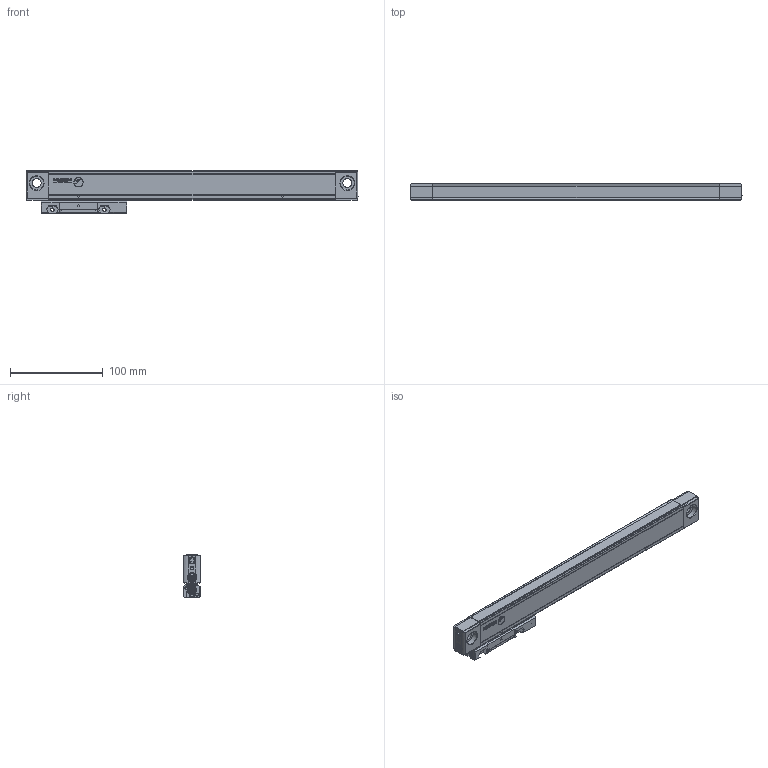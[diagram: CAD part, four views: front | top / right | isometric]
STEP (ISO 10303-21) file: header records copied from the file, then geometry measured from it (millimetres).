
FILE_DESCRIPTION(('Creo Elements/Direct Modeling STEP Export'),'2;1');
FILE_NAME('S3-220-T_V01.stp','2025-06-03T13:46:20',(''),(''),'Creo Elements/Direct Modeling STEP processor for AP214 (Solid Model)','Creo Elements/Direct Modeling 20.4A 18-Oct-2021 (C) Parametric Technology GmbH','');
FILE_SCHEMA(('AUTOMOTIVE_DESIGN { 1 0 10303 214 1 1 1 1 }'));
Length unit declared in the file: millimetre
Products named in the file (4): CABEZA-T; REGLA; S3-220-T_V01; S3-220-T_V01.stp
Assembly tree (3 placements, depth 3):
  S3-220-T_V01.stp
    S3-220-T_V01
      REGLA
      CABEZA-T
Bounding box: 358 x 18.3 x 46.2 mm (x, y, z)
Volume: 203157.4 mm3; surface area: 60470.6 mm2
Topology: 2 solids, 15 shells, 2148 faces, 6579 edges, 4542 vertices
Faces by surface type: plane 1148, cylinder 581, cone 230, bspline 135, torus 47, sphere 6, extrusion 1
Entity records: 90667 total; most frequent: CARTESIAN_POINT 31739, ORIENTED_EDGE 13084, DIRECTION 10690, EDGE_CURVE 6542, VERTEX_POINT 4542, VECTOR 4392, LINE 4391, AXIS2_PLACEMENT_3D 3149
